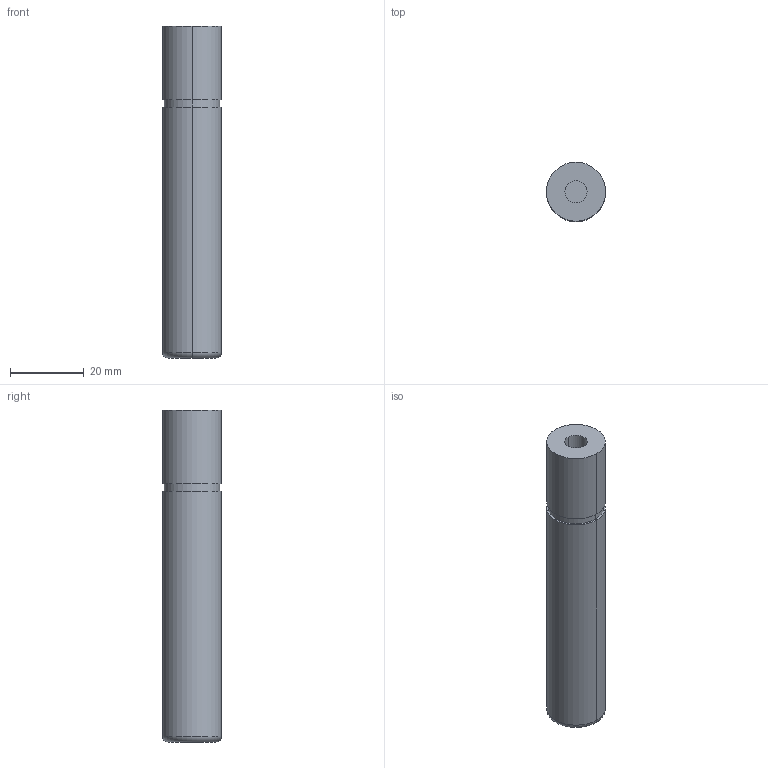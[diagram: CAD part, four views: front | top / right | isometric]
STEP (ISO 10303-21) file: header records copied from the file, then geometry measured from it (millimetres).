
FILE_DESCRIPTION(/* description */ (''),/* implementation_level */ '2;1');
FILE_NAME(/* name */ '3d_sgpn16-90_00281_r00.stp',/* time_stamp */ '2011-01-10T14:11:07+09:00',/* author */ ('MISUMI'),/* organization */ (''),/* preprocessor_version */ 'ST-DEVELOPER v11',/* originating_system */ 'UGS - NX 5.0',/* authorisation */ '');
FILE_SCHEMA (('CONFIG_CONTROL_DESIGN'));
Length unit declared in the file: millimetre
Products named in the file (1): 3d_sgpn16-90_00281_r00
Bounding box: 16 x 16 x 90 mm (x, y, z)
Volume: 17599.5 mm3; surface area: 5217.8 mm2
Topology: 1 solids, 1 shells, 15 faces, 28 edges, 18 vertices
Faces by surface type: cylinder 8, plane 5, torus 2
Entity records: 472 total; most frequent: DIRECTION 80, CARTESIAN_POINT 62, ORIENTED_EDGE 56, AXIS2_PLACEMENT_3D 36, EDGE_CURVE 28, CIRCLE 20, EDGE_LOOP 18, VERTEX_POINT 18
